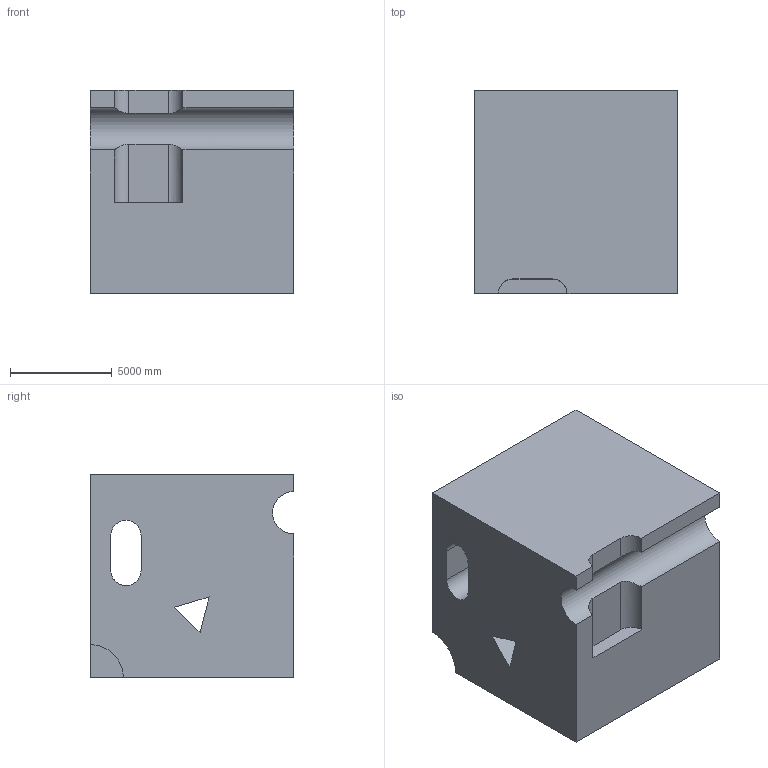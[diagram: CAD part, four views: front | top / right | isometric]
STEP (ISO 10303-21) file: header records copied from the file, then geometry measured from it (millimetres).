
FILE_DESCRIPTION (( 'STEP AP203' ), '1' );
FILE_NAME ('142.STEP', '2022-08-31T11:52:36', ( 'user' ), ( '' ), 'SwSTEP 2.0', 'SolidWorks 2021', '' );
FILE_SCHEMA (( 'CONFIG_CONTROL_DESIGN' ));
Length unit declared in the file: centimetre
Products named in the file (1): 142
Bounding box: 10000 x 10000 x 10000 mm (x, y, z)
Volume: 883737118814.9 mm3; surface area: 766453257.3 mm2
Topology: 1 solids, 1 shells, 40 faces, 114 edges, 76 vertices
Faces by surface type: plane 28, cylinder 12
Entity records: 1756 total; most frequent: CARTESIAN_POINT 608, ORIENTED_EDGE 228, DIRECTION 213, EDGE_CURVE 114, LINE 87, VECTOR 87, VERTEX_POINT 76, AXIS2_PLACEMENT_3D 63
